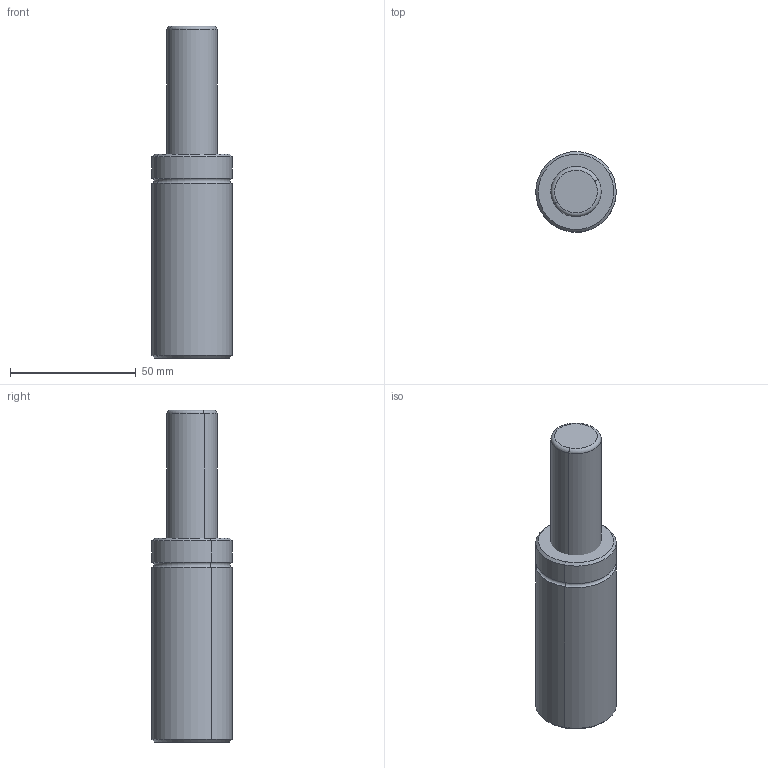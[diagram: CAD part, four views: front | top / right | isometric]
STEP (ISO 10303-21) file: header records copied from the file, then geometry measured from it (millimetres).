
FILE_DESCRIPTION(('CATIA V5 STEP Exchange'),'2;1');
FILE_NAME('W:\CATALOGO GENERAL 2018\FICHEROS CAD\003-TPH\TPH 470\TPH 470x50.stp','2017-11-30T15:51:03+00:00',('none'),('none'),'CATIA Version 5 Release 17 (IN-10)','CATIA V5 STEP AP203','none');
FILE_SCHEMA(('CONFIG_CONTROL_DESIGN'));
Length unit declared in the file: millimetre
Products named in the file (1): TPH 470x50
Bounding box: 31.99 x 31.99 x 132 mm (x, y, z)
Volume: 82141.3 mm3; surface area: 13775.9 mm2
Topology: 2 solids, 2 shells, 18 faces, 32 edges, 18 vertices
Faces by surface type: cylinder 6, cone 4, torus 4, plane 4
Entity records: 416 total; most frequent: ORIENTED_EDGE 64, CARTESIAN_POINT 61, DIRECTION 52, AXIS2_PLACEMENT_3D 33, EDGE_CURVE 32, CIRCLE 22, ADVANCED_FACE 18, EDGE_LOOP 18
